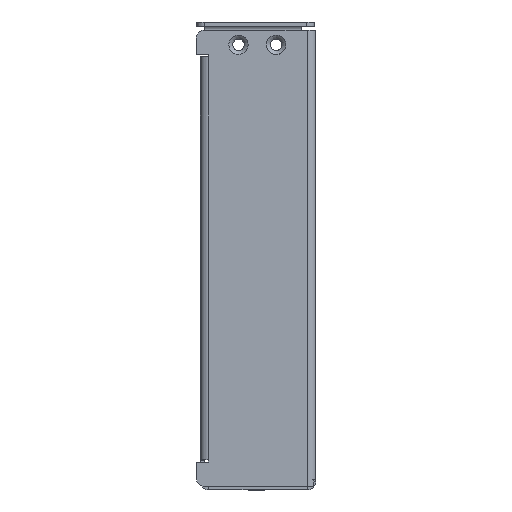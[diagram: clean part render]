
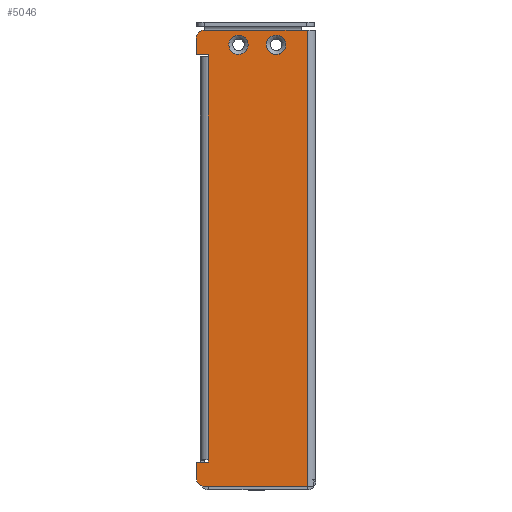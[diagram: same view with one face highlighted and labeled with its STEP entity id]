
A CAD part, left-side view. The second image highlights one B-rep face of the part: STEP entity #5046.
In plain terms, the highlighted planar face has unit normal (-1, 0, 0).
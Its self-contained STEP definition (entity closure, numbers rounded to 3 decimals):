
#32=FACE_BOUND('',#622,.T.);
#33=FACE_BOUND('',#623,.T.);
#83=PLANE('',#5384);
#325=FACE_OUTER_BOUND('',#621,.T.);
#621=EDGE_LOOP('',(#3574,#3575,#3576,#3577,#3578,#3579,#3580,#3581,#3582,
#3583,#3584,#3585,#3586));
#622=EDGE_LOOP('',(#3587));
#623=EDGE_LOOP('',(#3588));
#941=CIRCLE('',#5385,3.);
#942=CIRCLE('',#5386,3.);
#1153=B_SPLINE_CURVE_WITH_KNOTS('',3,(#10280,#10281,#10282,#10283,#10284,
#10285,#10286,#10287,#10288,#10289,#10290,#10291,#10292,#10293,#10294,#10295,
#10296),.UNSPECIFIED.,.T.,.F.,(4,1,1,1,1,1,1,1,1,1,1,1,1,1,4),(-2.252,
-2.091,-1.93,-1.809,-1.608,
-1.447,-1.287,-1.072,-0.965,
-0.804,-0.643,-0.482,-0.322,
-0.161,0.),.UNSPECIFIED.);
#1154=B_SPLINE_CURVE_WITH_KNOTS('',3,(#10325,#10326,#10327,#10328,#10329,
#10330,#10331,#10332,#10333,#10334,#10335,#10336,#10337,#10338,#10339,#10340),
 .UNSPECIFIED.,.T.,.F.,(4,1,1,1,1,1,1,1,1,1,1,1,1,4),(-2.252,
-2.091,-1.93,-1.769,-1.608,
-1.447,-1.287,-1.019,-0.992,
-0.965,-0.643,-0.322,-0.161,
0.),.UNSPECIFIED.);
#1358=LINE('',#10302,#1730);
#1359=LINE('',#10304,#1731);
#1360=LINE('',#10306,#1732);
#1361=LINE('',#10308,#1733);
#1362=LINE('',#10310,#1734);
#1363=LINE('',#10312,#1735);
#1364=LINE('',#10314,#1736);
#1365=LINE('',#10318,#1737);
#1366=LINE('',#10320,#1738);
#1367=LINE('',#10322,#1739);
#1368=LINE('',#10323,#1740);
#1730=VECTOR('',#5928,10.);
#1731=VECTOR('',#5929,10.);
#1732=VECTOR('',#5930,10.);
#1733=VECTOR('',#5931,10.);
#1734=VECTOR('',#5932,10.);
#1735=VECTOR('',#5933,10.);
#1736=VECTOR('',#5934,10.);
#1737=VECTOR('',#5937,10.);
#1738=VECTOR('',#5938,10.);
#1739=VECTOR('',#5939,10.);
#1740=VECTOR('',#5940,10.);
#2234=VERTEX_POINT('',#10273);
#2236=VERTEX_POINT('',#10298);
#2237=VERTEX_POINT('',#10299);
#2238=VERTEX_POINT('',#10301);
#2239=VERTEX_POINT('',#10303);
#2240=VERTEX_POINT('',#10305);
#2241=VERTEX_POINT('',#10307);
#2242=VERTEX_POINT('',#10309);
#2243=VERTEX_POINT('',#10311);
#2244=VERTEX_POINT('',#10313);
#2245=VERTEX_POINT('',#10315);
#2246=VERTEX_POINT('',#10317);
#2247=VERTEX_POINT('',#10319);
#2248=VERTEX_POINT('',#10321);
#2249=VERTEX_POINT('',#10324);
#2759=EDGE_CURVE('',#2234,#2234,#1153,.T.);
#2760=EDGE_CURVE('',#2236,#2237,#941,.T.);
#2761=EDGE_CURVE('',#2236,#2238,#1358,.T.);
#2762=EDGE_CURVE('',#2238,#2239,#1359,.T.);
#2763=EDGE_CURVE('',#2239,#2240,#1360,.T.);
#2764=EDGE_CURVE('',#2241,#2240,#1361,.T.);
#2765=EDGE_CURVE('',#2241,#2242,#1362,.T.);
#2766=EDGE_CURVE('',#2242,#2243,#1363,.T.);
#2767=EDGE_CURVE('',#2243,#2244,#1364,.T.);
#2768=EDGE_CURVE('',#2244,#2245,#942,.T.);
#2769=EDGE_CURVE('',#2245,#2246,#1365,.T.);
#2770=EDGE_CURVE('',#2246,#2247,#1366,.T.);
#2771=EDGE_CURVE('',#2247,#2248,#1367,.T.);
#2772=EDGE_CURVE('',#2237,#2248,#1368,.T.);
#2773=EDGE_CURVE('',#2249,#2249,#1154,.T.);
#3574=ORIENTED_EDGE('',*,*,#2760,.F.);
#3575=ORIENTED_EDGE('',*,*,#2761,.T.);
#3576=ORIENTED_EDGE('',*,*,#2762,.T.);
#3577=ORIENTED_EDGE('',*,*,#2763,.T.);
#3578=ORIENTED_EDGE('',*,*,#2764,.F.);
#3579=ORIENTED_EDGE('',*,*,#2765,.T.);
#3580=ORIENTED_EDGE('',*,*,#2766,.T.);
#3581=ORIENTED_EDGE('',*,*,#2767,.T.);
#3582=ORIENTED_EDGE('',*,*,#2768,.T.);
#3583=ORIENTED_EDGE('',*,*,#2769,.T.);
#3584=ORIENTED_EDGE('',*,*,#2770,.T.);
#3585=ORIENTED_EDGE('',*,*,#2771,.T.);
#3586=ORIENTED_EDGE('',*,*,#2772,.F.);
#3587=ORIENTED_EDGE('',*,*,#2773,.F.);
#3588=ORIENTED_EDGE('',*,*,#2759,.F.);
#5046=ADVANCED_FACE('',(#325,#32,#33),#83,.F.);
#5384=AXIS2_PLACEMENT_3D('',#10297,#5924,#5925);
#5385=AXIS2_PLACEMENT_3D('',#10300,#5926,#5927);
#5386=AXIS2_PLACEMENT_3D('',#10316,#5935,#5936);
#5924=DIRECTION('center_axis',(1.,0.,0.));
#5925=DIRECTION('ref_axis',(0.,-1.,0.));
#5926=DIRECTION('center_axis',(1.,0.,0.));
#5927=DIRECTION('ref_axis',(0.,0.707,0.707));
#5928=DIRECTION('',(0.,0.,-1.));
#5929=DIRECTION('',(0.,-1.,0.));
#5930=DIRECTION('',(0.,0.,-1.));
#5931=DIRECTION('',(0.,0.,1.));
#5932=DIRECTION('',(0.,0.,-1.));
#5933=DIRECTION('',(0.,1.,0.));
#5934=DIRECTION('',(0.,0.,-1.));
#5935=DIRECTION('center_axis',(-1.,0.,0.));
#5936=DIRECTION('ref_axis',(0.,0.,
-1.));
#5937=DIRECTION('',(0.,-1.,0.));
#5938=DIRECTION('',(0.,0.,1.));
#5939=DIRECTION('',(0.,1.,0.));
#5940=DIRECTION('',(0.,-1.,0.));
#10273=CARTESIAN_POINT('',(-110.596,13.2,41.799));
#10280=CARTESIAN_POINT('Ctrl Pts',(-110.596,13.2,41.799));
#10281=CARTESIAN_POINT('Ctrl Pts',(-110.596,13.739,41.799));
#10282=CARTESIAN_POINT('Ctrl Pts',(-110.596,14.816,41.553));
#10283=CARTESIAN_POINT('Ctrl Pts',(-110.596,16.002,40.606));
#10284=CARTESIAN_POINT('Ctrl Pts',(-110.596,16.796,39.172));
#10285=CARTESIAN_POINT('Ctrl Pts',(-110.596,16.892,37.495));
#10286=CARTESIAN_POINT('Ctrl Pts',(-110.596,16.11,35.879));
#10287=CARTESIAN_POINT('Ctrl Pts',(-110.596,14.672,34.728));
#10288=CARTESIAN_POINT('Ctrl Pts',(-110.596,13.003,34.477));
#10289=CARTESIAN_POINT('Ctrl Pts',(-110.596,11.441,34.961));
#10290=CARTESIAN_POINT('Ctrl Pts',(-110.596,10.289,35.878));
#10291=CARTESIAN_POINT('Ctrl Pts',(-110.596,9.57,37.371));
#10292=CARTESIAN_POINT('Ctrl Pts',(-110.596,9.571,39.028));
#10293=CARTESIAN_POINT('Ctrl Pts',(-110.596,10.289,40.521));
#10294=CARTESIAN_POINT('Ctrl Pts',(-110.596,11.585,41.553));
#10295=CARTESIAN_POINT('Ctrl Pts',(-110.596,12.661,41.799));
#10296=CARTESIAN_POINT('Ctrl Pts',(-110.596,13.2,41.799));
#10297=CARTESIAN_POINT('Origin',(-110.596,-233.9,54.674));
#10298=CARTESIAN_POINT('',(-110.596,42.9,40.681));
#10299=CARTESIAN_POINT('',(-110.596,39.9,43.681));
#10300=CARTESIAN_POINT('Origin',(-110.596,39.9,40.681));
#10301=CARTESIAN_POINT('',(-110.596,42.9,34.681));
#10302=CARTESIAN_POINT('',(-110.596,42.9,40.681));
#10303=CARTESIAN_POINT('',(-110.596,38.4,34.681));
#10304=CARTESIAN_POINT('',(-110.596,38.4,34.681));
#10305=CARTESIAN_POINT('',(-110.596,38.4,33.681));
#10306=CARTESIAN_POINT('',(-110.596,38.4,33.681));
#10307=CARTESIAN_POINT('',(-110.596,38.4,-116.319));
#10308=CARTESIAN_POINT('',(-110.596,38.4,27.337));
#10309=CARTESIAN_POINT('',(-110.596,38.4,-117.319));
#10310=CARTESIAN_POINT('',(-110.596,38.4,-116.319));
#10311=CARTESIAN_POINT('',(-110.596,42.9,-117.319));
#10312=CARTESIAN_POINT('',(-110.596,38.4,-117.319));
#10313=CARTESIAN_POINT('',(-110.596,42.9,-123.319));
#10314=CARTESIAN_POINT('',(-110.596,42.9,40.681));
#10315=CARTESIAN_POINT('',(-110.596,39.9,-126.319));
#10316=CARTESIAN_POINT('Origin',(-110.596,39.9,-123.319));
#10317=CARTESIAN_POINT('',(-110.596,1.5,-126.319));
#10318=CARTESIAN_POINT('',(-110.596,-252.9,-126.319));
#10319=CARTESIAN_POINT('',(-110.596,1.5,43.681));
#10320=CARTESIAN_POINT('',(-110.596,1.5,27.337));
#10321=CARTESIAN_POINT('',(-110.596,3.9,43.681));
#10322=CARTESIAN_POINT('',(-110.596,3.9,43.681));
#10323=CARTESIAN_POINT('',(-110.596,-116.95,43.681));
#10324=CARTESIAN_POINT('',(-110.596,27.202,41.781));
#10325=CARTESIAN_POINT('Ctrl Pts',(-110.596,27.202,41.781));
#10326=CARTESIAN_POINT('Ctrl Pts',(-110.596,27.74,41.781));
#10327=CARTESIAN_POINT('Ctrl Pts',(-110.596,28.817,41.534));
#10328=CARTESIAN_POINT('Ctrl Pts',(-110.596,30.113,40.502));
#10329=CARTESIAN_POINT('Ctrl Pts',(-110.596,30.831,39.009));
#10330=CARTESIAN_POINT('Ctrl Pts',(-110.596,30.831,37.351));
#10331=CARTESIAN_POINT('Ctrl Pts',(-110.596,30.111,35.86));
#10332=CARTESIAN_POINT('Ctrl Pts',(-110.596,28.529,34.592));
#10333=CARTESIAN_POINT('Ctrl Pts',(-110.596,26.901,34.464));
#10334=CARTESIAN_POINT('Ctrl Pts',(-110.596,25.884,34.825));
#10335=CARTESIAN_POINT('Ctrl Pts',(-110.596,24.728,35.32));
#10336=CARTESIAN_POINT('Ctrl Pts',(-110.596,23.185,37.271));
#10337=CARTESIAN_POINT('Ctrl Pts',(-110.596,23.851,40.164));
#10338=CARTESIAN_POINT('Ctrl Pts',(-110.596,25.592,41.532));
#10339=CARTESIAN_POINT('Ctrl Pts',(-110.596,26.663,41.781));
#10340=CARTESIAN_POINT('Ctrl Pts',(-110.596,27.202,41.781));
